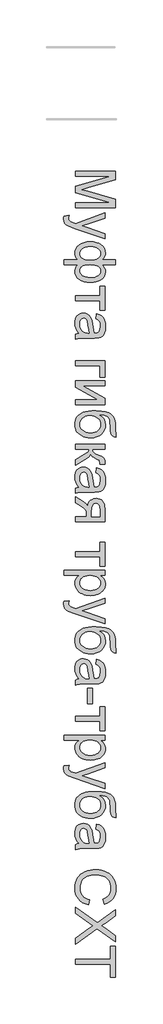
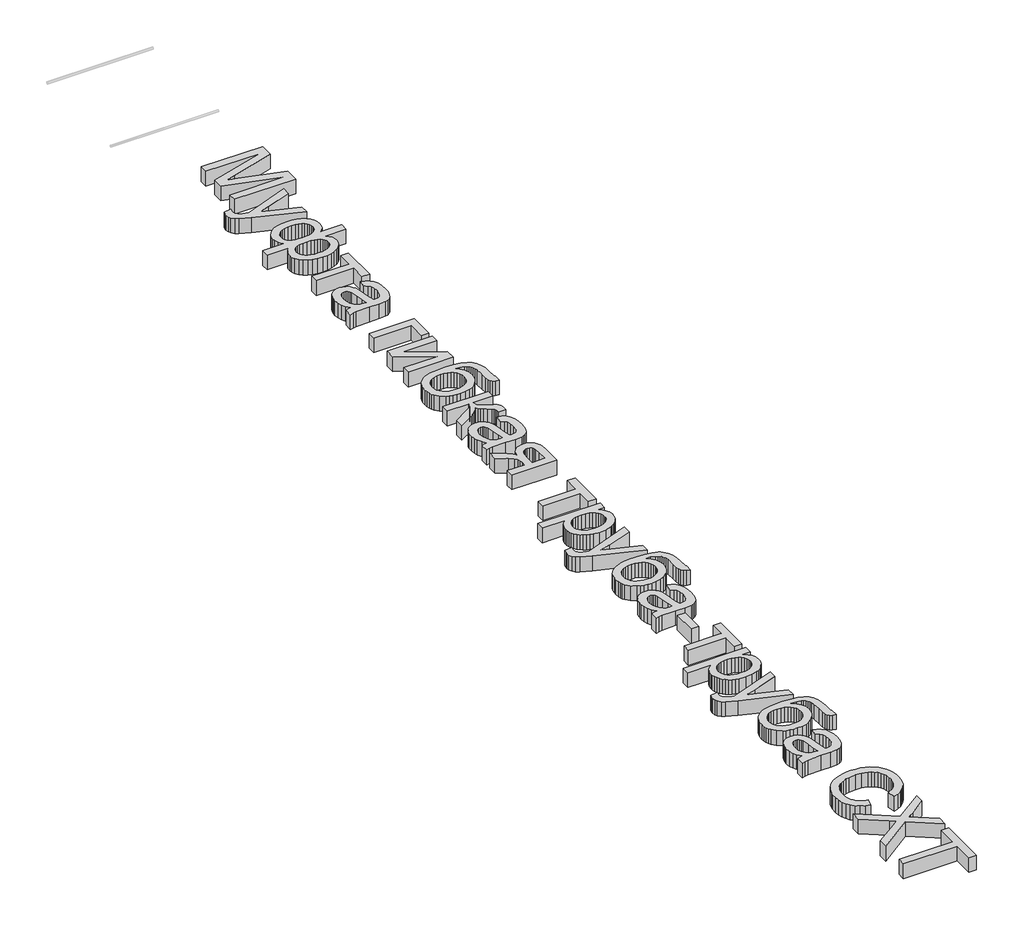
# One storey, part 14 of 33: 1 proxy.
"""IFC4 building model written with IfcOpenShell, lengths in millimetres."""

from ifc_helpers import new_model, si_unit, origin, origin_with_axes, place, context, project, spatial, polyline, outline, extrude, element, save

model = new_model("IFC4")

# Units and contexts
model_context = context("Model", 3, world=origin())
ifc_project = project(units=[si_unit("LENGTHUNIT", "METRE", prefix="MILLI")], contexts=[model_context])

# Site, building, storey
site = spatial("IfcSite", under=ifc_project)
building = spatial("IfcBuilding", under=site)
storey = spatial("IfcBuildingStorey", under=building, Name="Уровень 1", Elevation=0.0)

# Proxy
placement = place(None, origin())
element("IfcBuildingElementProxy", 1, Name="Надпись на модели 1", ObjectType="Надпись на модели 1", at=placement, inside=storey, context=model_context, shape_type="SweptSolid", body=[
    extrude(outline(polyline([(10924.4625724, -797.7209838), (11515.2318032, -797.7209838), (11515.2318032, -924.7882915), (11098.8375724, -1045.6536761), (11011.8664186, -1070.0286761), (11106.0491109, -1096.4229069), (11515.2318032, -1215.2690607), (11515.2318032, -1342.3363684), (10924.4625724, -1342.3363684), (10924.4625724, -1268.4902146), (11441.3856493, -1268.4902146), (10924.4625724, -1120.0767531), (10924.4625724, -1019.9805992), (11441.3856493, -871.5671377), (10924.4625724, -871.5671377), (10924.4625724, -797.7209838)])), origin_with_axes(), (0.0, 0.0, 1.0), 150.0),
    extrude(outline(polyline([(10758.3087262, -1462.3363684), (10829.4144955, -1453.1055992), (10822.9241109, -1490.6055992), (10824.9613705, -1510.3291569), (10831.0731493, -1525.6536761), (10840.8267551, -1537.5887723), (10853.7894955, -1547.1440607), (10908.1644955, -1567.3363684), (10926.0491109, -1573.1055992), (11358.3087262, -1416.1825223), (11358.3087262, -1494.0671377), (11117.4433416, -1577.2882915), (11021.0971878, -1606.2786761), (11106.1933416, -1635.2690607), (11358.3087262, -1720.7979069), (11358.3087262, -1798.1055992), (10914.077957, -1647.0959838), (10817.7318032, -1607.8652146), (10786.9745916, -1587.78108), (10765.6644955, -1565.0286761), (10753.2245916, -1538.5983877), (10749.077957, -1507.4805992), (10751.3856493, -1486.0983877), (10758.3087262, -1462.3363684)])), origin_with_axes(), (0.0, 0.0, 1.0), 150.0),
    extrude(outline(polyline([(11515.2318032, -2108.4902146), (11515.2318032, -2182.3363684), (11316.6260339, -2182.3363684), (11339.0358897, -2204.7462242), (11354.9193032, -2229.2834838), (11364.3844474, -2255.8399742), (11367.5394955, -2284.3075223), (11363.5280772, -2318.4947218), (11351.4938224, -2348.9409357), (11331.4367311, -2375.6461641), (11303.3568032, -2398.6104069), (11269.1921397, -2417.0674381), (11230.8808416, -2430.2510319), (11188.4229089, -2438.1611881), (11141.8183416, -2440.7979069), (11093.4875123, -2437.9583636), (11050.0334859, -2429.4397338), (11011.4562623, -2415.2420175), (10977.7558416, -2395.3652146), (10950.4015748, -2371.2696617), (10930.8628128, -2344.4156954), (10919.1395556, -2314.8033156), (10915.2318032, -2282.4325223), (10917.0346878, -2260.0406954), (10922.4433416, -2237.2882915), (10935.8928609, -2212.0839646), (10961.8183416, -2182.3363684), (10758.3087262, -2182.3363684), (10758.3087262, -2108.4902146), (10961.8183416, -2108.4902146), (10941.4818032, -2086.0262723), (10926.9144955, -2061.3267531), (10918.1524762, -2034.4637723), (10915.2318032, -2005.5094454), (10918.9637743, -1973.5262723), (10930.1596878, -1943.6344454), (10948.8195436, -1915.8339646), (10974.9433416, -1890.12483), (11008.0172599, -1868.5443011), (11047.5274762, -1853.1296377), (11093.4739907, -1843.8808396), (11145.8568032, -1840.7979069), (11191.0461061, -1843.5878708), (11232.4313224, -1851.9577627), (11270.0124522, -1865.9075824), (11303.7894955, -1885.43733), (11331.6801205, -1909.6816208), (11351.6019955, -1937.7750704), (11363.5551205, -1969.7176785), (11367.5394955, -2005.5094454), (11364.3844474, -2035.5995896), (11354.9193032, -2062.6969454), (11339.0358897, -2086.9457434), (11316.6260339, -2108.4902146), (11515.2318032, -2108.4902146)]), holes=[polyline([(11140.0875724, -2181.9036761), (11099.0403969, -2183.4406353), (11065.3219474, -2188.0515127), (11038.9322238, -2195.7363083), (11019.8712262, -2206.4950223), (11006.399171, -2219.570443), (10996.7762743, -2234.2053588), (10991.0025363, -2250.3997699), (10989.077957, -2268.1536761), (10991.4442431, -2287.881741), (10998.5431012, -2306.1043973), (11010.3745315, -2322.8216449), (11026.9385339, -2338.0334838), (11048.4875123, -2350.6852266), (11075.2738705, -2359.7221857), (11107.2976085, -2365.1443612), (11144.5587262, -2366.9517531), (11179.8051205, -2365.2840848), (11210.2558416, -2360.28108), (11235.9108897, -2351.9427386), (11256.7702647, -2340.2690607), (11272.9241109, -2325.9812002), (11284.4625724, -2309.8003107), (11291.3856493, -2291.7263925), (11293.6933416, -2271.7594454), (11291.2909979, -2250.7873901), (11284.0839666, -2232.5827627), (11272.0722479, -2217.1455631), (11255.2558416, -2204.4757915), (11233.6437623, -2194.600491), (11207.2450243, -2187.546705), (11176.0596277, -2183.3144333), (11140.0875724, -2181.9036761)]), polyline([(11147.4433416, -1914.6440607), (11108.2756734, -1916.4920175), (11075.0034378, -1922.0358877), (11047.6266349, -1931.2756713), (11026.1452647, -1944.2113684), (11009.9283176, -1959.8874502), (10998.3447839, -1977.3483877), (10991.3946637, -1996.5941809), (10989.077957, -2017.62483), (10991.3811421, -2039.1107074), (10998.2906974, -2057.702955), (11009.8066229, -2073.4015728), (11025.9289186, -2086.2065607), (11046.6575844, -2096.1449622), (11071.9926205, -2103.2438204), (11101.9340267, -2107.5031353), (11136.4818032, -2108.9229069), (11173.3282575, -2107.4310199), (11205.2618512, -2102.9553588), (11232.2825844, -2095.4959237), (11254.390457, -2085.0527146), (11271.585469, -2071.5986881), (11283.8676205, -2055.1068011), (11291.2369113, -2035.5770535), (11293.6933416, -2013.0094454), (11291.2955051, -1992.2402146), (11284.1019955, -1973.4902146), (11272.1128128, -1956.7594454), (11255.327957, -1942.0479069), (11234.1981493, -1930.0587242), (11209.1741109, -1921.4950223), (11180.2558416, -1916.3568011), (11147.4433416, -1914.6440607)])]), origin_with_axes(), (0.0, 0.0, 1.0), 150.0),
    extrude(outline(polyline([(11358.3087262, -2496.1825223), (11358.3087262, -2846.9517531), (11284.4625724, -2846.9517531), (11284.4625724, -2708.4902146), (10924.4625724, -2708.4902146), (10924.4625724, -2634.6440607), (11284.4625724, -2634.6440607), (11284.4625724, -2496.1825223), (11358.3087262, -2496.1825223)])), origin_with_axes(), (0.0, 0.0, 1.0), 150.0),
    extrude(outline(polyline([(10979.8471878, -3188.4902146), (10949.5947839, -3153.2077627), (10929.7991109, -3116.8796377), (10918.8736301, -3078.6765127), (10915.2318032, -3037.7690607), (10917.422308, -3004.8889526), (10923.9938224, -2976.0563204), (10934.9463464, -2951.2711641), (10950.2798801, -2930.5334838), (10969.0208657, -2914.1587843), (10990.1957455, -2902.4625704), (11013.8045195, -2895.444842), (11039.8471878, -2893.1055992), (11070.4601686, -2896.6392531), (11098.2606493, -2907.2402146), (11122.0587262, -2923.5923781), (11140.6644955, -2944.3796377), (11154.7269955, -2968.8087242), (11164.8952647, -2996.0863684), (11176.0010339, -3059.9805992), (11187.6837262, -3135.4854069), (11201.3856493, -3188.0575223), (11217.827957, -3188.4902146), (11250.7846878, -3183.40608), (11262.9902166, -3177.0509117), (11272.3471878, -3168.1536761), (11281.6861301, -3152.7750704), (11288.3568032, -3134.0430992), (11293.6933416, -3086.5190607), (11290.1416589, -3042.5286761), (11279.4866109, -3011.8075223), (11259.781082, -2990.8580031), (11229.077957, -2976.1825223), (11238.3087262, -2902.3363684), (11278.6933416, -2915.1548781), (11310.4241109, -2934.2834838), (11334.6909378, -2961.5070415), (11352.6837262, -2998.6104069), (11363.8255532, -3043.9890127), (11367.5394955, -3096.0382915), (11364.2582455, -3145.9601665), (11354.4144955, -3185.5334838), (11339.6128128, -3215.3712242), (11321.4577647, -3236.0863684), (11299.0118512, -3249.8243492), (11271.3375724, -3258.7305992), (11206.7221878, -3262.3363684), (11114.8471878, -3262.3363684), (10986.5539186, -3266.0863684), (10954.8411782, -3271.6392531), (10924.4625724, -3280.7979069), (10924.4625724, -3206.9517531), (10950.1356493, -3195.12483), (10979.8471878, -3188.4902146)]), holes=[polyline([(11127.5394955, -3188.4902146), (11115.2438224, -3138.87483), (11104.8952647, -3069.3555992), (11092.9241109, -3005.8219454), (11084.7390147, -2989.2894934), (11073.452957, -2977.0479069), (11059.9313224, -2969.4757915), (11045.0394955, -2966.9517531), (11023.0803609, -2972.4505511), (11005.0875724, -2988.9469454), (10993.0803609, -3016.0803588), (10989.077957, -3053.4902146), (10993.4950243, -3093.1536761), (11006.7462262, -3128.2017531), (11026.2714666, -3156.6152146), (11049.5106493, -3176.37483), (11073.452957, -3185.1368492), (11106.6260339, -3188.0575223), (11127.5394955, -3188.4902146)])]), origin_with_axes(), (0.0, 0.0, 1.0), 150.0),
    extrude(outline(polyline([(11358.3087262, -3594.6440607), (11358.3087262, -3834.6440607), (11284.4625724, -3834.6440607), (11284.4625724, -3668.4902146), (10924.4625724, -3668.4902146), (10924.4625724, -3594.6440607), (11358.3087262, -3594.6440607)])), origin_with_axes(), (0.0, 0.0, 1.0), 150.0),
    extrude(outline(polyline([(11358.3087262, -3890.0286761), (11358.3087262, -3963.87483), (11027.4433416, -3963.87483), (11358.3087262, -4145.3171377), (11358.3087262, -4240.7979069), (10924.4625724, -4240.7979069), (10924.4625724, -4166.9517531), (11253.3087262, -4166.9517531), (10924.4625724, -3986.6632915), (10924.4625724, -3890.0286761), (11358.3087262, -3890.0286761)])), origin_with_axes(), (0.0, 0.0, 1.0), 150.0),
    extrude(outline(polyline([(11524.4625724, -4656.1825223), (11524.4625724, -4720.7979069), (11489.3604089, -4713.8027146), (11466.8423801, -4701.7594454), (11453.5190628, -4685.0647338), (11446.0010339, -4664.1152146), (11442.5394955, -4629.96858), (11441.3856493, -4573.6825223), (11437.1308416, -4498.5923781), (11431.812332, -4471.6888324), (11424.3664186, -4451.8796377), (11414.5767551, -4436.7624502), (11402.2269955, -4423.9349261), (11387.3171397, -4413.3970656), (11369.8471878, -4405.1488684), (11326.9745916, -4394.0971857), (11273.3568032, -4389.3555992), (11314.6068032, -4419.0491088), (11344.0298801, -4453.3219454), (11361.6620916, -4492.2101665), (11367.5394955, -4535.74983), (11363.8030171, -4575.9812002), (11352.593582, -4612.5887723), (11333.9111902, -4645.5725463), (11307.7558416, -4674.9325223), (11275.227296, -4699.0370896), (11237.4253128, -4716.2546377), (11194.3498921, -4726.5851665), (11146.0010339, -4730.0286761), (11109.0148561, -4728.320443), (11075.5082455, -4723.1957434), (11045.4812022, -4714.6545776), (11018.9337262, -4702.6969454), (10974.9613705, -4672.8231473), (10942.2750724, -4637.8652146), (10930.4436421, -4617.4205031), (10921.9926205, -4593.5863684), (10916.9220075, -4566.3628107), (10915.2318032, -4535.74983), (10917.4087863, -4500.3366689), (10923.9397359, -4469.0971857), (10934.8246517, -4442.0313805), (10950.0635339, -4419.1392531), (10968.6963464, -4399.5464045), (10989.7630532, -4382.3784357), (11013.2636541, -4367.6353468), (11039.1981493, -4355.3171377), (11071.3841469, -4345.5995896), (11113.6392551, -4338.6584838), (11165.9634738, -4334.4938204), (11228.3568032, -4333.1055992), (11306.1107094, -4336.6077026), (11370.0455051, -4347.1140127), (11420.1611902, -4364.6245295), (11440.0368663, -4376.0063654), (11456.4577647, -4389.1392531), (11482.1714065, -4420.9196016), (11500.5382936, -4460.2269934), (11511.5584258, -4507.0614285), (11515.2318032, -4561.4229069), (11516.890457, -4643.6344454), (11519.6128128, -4651.6753107), (11524.4625724, -4656.1825223)]), holes=[polyline([(11148.3087262, -4656.1825223), (11178.8090267, -4654.1813204), (11206.4156974, -4648.1777146), (11231.1287383, -4638.171705), (11252.9481493, -4624.1632915), (11270.774171, -4606.5130511), (11283.5070436, -4585.5815607), (11291.1467671, -4561.3688204), (11293.6933416, -4533.87483), (11291.0025363, -4505.1819213), (11282.9301205, -4479.96858), (11269.476094, -4458.2348059), (11250.640457, -4439.9805992), (11227.3066229, -4425.530479), (11200.3580051, -4415.2089646), (11169.7946037, -4409.0160559), (11135.6164186, -4406.9517531), (11102.1503729, -4409.2324021), (11072.8580051, -4416.0743492), (11047.7393152, -4427.4775944), (11026.7943032, -4443.4421377), (11010.2934017, -4462.7510319), (10998.5070436, -4484.18733), (10991.4352287, -4507.7510319), (10989.077957, -4533.4421377), (10991.80482, -4559.4848059), (10999.9854089, -4582.9493492), (11013.6197238, -4603.8357675), (11032.7077647, -4622.1440607), (11056.2940027, -4637.0358877), (11083.4229089, -4647.6729069), (11114.0944835, -4654.0551184), (11148.3087262, -4656.1825223)])]), origin_with_axes(), (0.0, 0.0, 1.0), 150.0),
    extrude(outline(polyline([(11358.3087262, -4822.3363684), (11358.3087262, -4896.1825223), (11173.6933416, -4896.1825223), (11177.0106493, -4926.21858), (11186.9625724, -4945.6536761), (11212.9241109, -4962.8531954), (11264.2702647, -4986.1825223), (11306.2594474, -5004.9866088), (11330.9769955, -5019.8604069), (11344.4445436, -5033.7426184), (11352.6837262, -5049.5719454), (11356.9024762, -5071.4769934), (11358.3087262, -5103.5863684), (11358.3087262, -5117.7209838), (11284.0298801, -5117.7209838), (11284.4625724, -5097.8171377), (11282.515457, -5074.7402146), (11276.6741109, -5061.7594454), (11260.4120916, -5051.2305992), (11228.0683416, -5036.37483), (11195.6705051, -5020.7798781), (11175.4962262, -5006.5911761), (11162.0286782, -4989.4096857), (11149.7510339, -4964.8363684), (11139.3574041, -4988.2378107), (11121.0130532, -5011.4229069), (11094.7179811, -5034.3916569), (11060.4721878, -5057.1440607), (10924.4625724, -5136.1825223), (10924.4625724, -5052.2402146), (11057.5875724, -4974.7882915), (11093.0142551, -4953.87483), (11113.9096878, -4935.8459838), (11124.1320436, -4917.6368492), (11127.5394955, -4896.1825223), (10924.4625724, -4896.1825223), (10924.4625724, -4822.3363684), (11358.3087262, -4822.3363684)])), origin_with_axes(), (0.0, 0.0, 1.0), 150.0),
    extrude(outline(polyline([(10979.8471878, -5459.2594454), (10949.5947839, -5423.9769934), (10929.7991109, -5387.6488684), (10918.8736301, -5349.4457434), (10915.2318032, -5308.5382915), (10917.422308, -5275.6581833), (10923.9938224, -5246.8255511), (10934.9463464, -5222.0403949), (10950.2798801, -5201.3027146), (10969.0208657, -5184.9280151), (10990.1957455, -5173.2318011), (11013.8045195, -5166.2140728), (11039.8471878, -5163.87483), (11070.4601686, -5167.4084838), (11098.2606493, -5178.0094454), (11122.0587262, -5194.3616088), (11140.6644955, -5215.1488684), (11154.7269955, -5239.577955), (11164.8952647, -5266.8555992), (11176.0010339, -5330.74983), (11187.6837262, -5406.2546377), (11201.3856493, -5458.8267531), (11217.827957, -5459.2594454), (11250.7846878, -5454.1753107), (11262.9902166, -5447.8201425), (11272.3471878, -5438.9229069), (11281.6861301, -5423.5443011), (11288.3568032, -5404.81233), (11293.6933416, -5357.2882915), (11290.1416589, -5313.2979069), (11279.4866109, -5282.5767531), (11259.781082, -5261.6272338), (11229.077957, -5246.9517531), (11238.3087262, -5173.1055992), (11278.6933416, -5185.9241088), (11310.4241109, -5205.0527146), (11334.6909378, -5232.2762723), (11352.6837262, -5269.3796377), (11363.8255532, -5314.7582434), (11367.5394955, -5366.8075223), (11364.2582455, -5416.7293973), (11354.4144955, -5456.3027146), (11339.6128128, -5486.140455), (11321.4577647, -5506.8555992), (11299.0118512, -5520.59358), (11271.3375724, -5529.49983), (11206.7221878, -5533.1055992), (11114.8471878, -5533.1055992), (10986.5539186, -5536.8555992), (10954.8411782, -5542.4084838), (10924.4625724, -5551.5671377), (10924.4625724, -5477.7209838), (10950.1356493, -5465.8940607), (10979.8471878, -5459.2594454)]), holes=[polyline([(11127.5394955, -5459.2594454), (11115.2438224, -5409.6440607), (11104.8952647, -5340.12483), (11092.9241109, -5276.5911761), (11084.7390147, -5260.0587242), (11073.452957, -5247.8171377), (11059.9313224, -5240.2450223), (11045.0394955, -5237.7209838), (11023.0803609, -5243.2197819), (11005.0875724, -5259.7161761), (10993.0803609, -5286.8495896), (10989.077957, -5324.2594454), (10993.4950243, -5363.9229069), (11006.7462262, -5398.9709838), (11026.2714666, -5427.3844454), (11049.5106493, -5447.1440607), (11073.452957, -5455.90608), (11106.6260339, -5458.8267531), (11127.5394955, -5459.2594454)])]), origin_with_axes(), (0.0, 0.0, 1.0), 150.0),
    extrude(outline(polyline([(11358.3087262, -5966.9517531), (10924.4625724, -5966.9517531), (10924.4625724, -5893.1055992), (11090.6164186, -5893.1055992), (11090.6164186, -5852.8652146), (11088.2726686, -5820.7738684), (11081.2414186, -5798.0575223), (11060.796707, -5776.1705031), (11018.2125724, -5746.5671377), (10924.4625724, -5687.7209838), (10924.4625724, -5602.3363684), (11043.0202647, -5676.4709838), (11085.5683416, -5709.2113684), (11097.9721878, -5724.6080031), (11104.4625724, -5739.3555992), (11110.4571637, -5712.2402146), (11119.9313224, -5688.87483), (11132.8850484, -5669.2594454), (11149.3183416, -5653.3940607), (11168.1765147, -5641.1524742), (11188.4048801, -5632.4084838), (11210.0034378, -5627.1620896), (11232.9721878, -5625.4132915), (11259.5647359, -5627.8021136), (11283.5250724, -5634.96858), (11304.8531974, -5646.9126906), (11323.5491109, -5663.6344454), (11338.7564426, -5684.8814406), (11349.6188224, -5710.4012723), (11356.1362503, -5740.1939406), (11358.3087262, -5774.2594454), (11358.3087262, -5966.9517531)]), holes=[polyline([(11284.4625724, -5893.1055992), (11284.4625724, -5795.74983), (11280.1897359, -5745.4673781), (11274.8486902, -5728.4796978), (11267.3712262, -5716.9277146), (11248.8195436, -5703.6765127), (11227.3471878, -5699.2594454), (11212.1984498, -5700.8865487), (11199.2041589, -5705.7678588), (11188.3643152, -5713.9033756), (11179.6789186, -5725.2930992), (11173.0217671, -5740.820443), (11168.2666589, -5761.3688204), (11164.4625724, -5817.5286761), (11164.4625724, -5893.1055992), (11284.4625724, -5893.1055992)])]), origin_with_axes(), (0.0, 0.0, 1.0), 150.0),
    extrude(outline(polyline([(11358.3087262, -6271.5671377), (11358.3087262, -6622.3363684), (11284.4625724, -6622.3363684), (11284.4625724, -6483.87483), (10924.4625724, -6483.87483), (10924.4625724, -6410.0286761), (11284.4625724, -6410.0286761), (11284.4625724, -6271.5671377), (11358.3087262, -6271.5671377)])), origin_with_axes(), (0.0, 0.0, 1.0), 150.0),
    extrude(outline(polyline([(10758.3087262, -6686.9517531), (11358.3087262, -6686.9517531), (11358.3087262, -6760.7979069), (11285.9048801, -6760.7979069), (11321.6200243, -6784.8844454), (11347.1308416, -6811.8555992), (11362.437332, -6843.2979069), (11367.5394955, -6880.7979069), (11365.7546397, -6906.5521136), (11360.4000724, -6930.7378107), (11351.4757936, -6953.3549982), (11338.9818032, -6974.4036761), (11323.2426205, -6993.4241088), (11304.5827647, -7009.9565607), (11283.0022359, -7024.0010319), (11258.5010339, -7035.5575223), (11204.0899762, -7051.0262723), (11144.702957, -7056.1825223), (11081.5479089, -7050.359205), (11052.4718873, -7043.0800583), (11025.0635339, -7032.8892531), (11000.0394955, -7019.9265127), (10978.1164186, -7004.3315607), (10959.2943032, -6986.1043973), (10943.5731493, -6965.2450223), (10931.1738104, -6942.7765728), (10922.3171397, -6919.7221857), (10917.0031373, -6896.0818612), (10915.2318032, -6871.8555992), (10919.9733897, -6837.9072819), (10934.1981493, -6807.6007915), (10955.6705051, -6781.6572819), (10982.1548801, -6760.7979069), (10758.3087262, -6760.7979069), (10758.3087262, -6686.9517531)]), holes=[polyline([(11137.9241109, -6760.7979069), (11102.3351686, -6762.7946016), (11071.7221878, -6768.7846857), (11046.0851686, -6778.7681593), (11025.4241109, -6792.7450223), (11009.5226686, -6809.570443), (10998.1644955, -6828.0995896), (10991.3495916, -6848.3324622), (10989.077957, -6870.2690607), (10991.4307214, -6892.5211641), (10998.4890147, -6913.1236281), (11010.2528368, -6932.0764526), (11026.7221878, -6949.3796377), (11048.1314426, -6963.7982074), (11074.7149762, -6974.0971857), (11106.4727887, -6980.2765728), (11143.4048801, -6982.3363684), (11178.687332, -6980.3261521), (11209.2462262, -6974.2955031), (11235.0815628, -6964.2444213), (11256.1933416, -6950.1729069), (11272.5995916, -6933.3069213), (11284.3183416, -6914.8724261), (11291.3495916, -6894.8694213), (11293.6933416, -6873.2979069), (11291.2008537, -6851.7940006), (11283.7233897, -6831.5611281), (11271.2609498, -6812.5992891), (11253.8135339, -6794.9084838), (11231.6155171, -6779.9851064), (11204.9012743, -6769.3255511), (11173.6708056, -6762.929818), (11137.9241109, -6760.7979069)])]), origin_with_axes(), (0.0, 0.0, 1.0), 150.0),
    extrude(outline(polyline([(10758.3087262, -7139.2594454), (10829.4144955, -7130.0286761), (10822.9241109, -7167.5286761), (10824.9613705, -7187.2522338), (10831.0731493, -7202.5767531), (10840.8267551, -7214.5118492), (10853.7894955, -7224.0671377), (10908.1644955, -7244.2594454), (10926.0491109, -7250.0286761), (11358.3087262, -7093.1055992), (11358.3087262, -7170.9902146), (11117.4433416, -7254.2113684), (11021.0971878, -7283.2017531), (11106.1933416, -7312.1921377), (11358.3087262, -7397.7209838), (11358.3087262, -7475.0286761), (10914.077957, -7324.0190607), (10817.7318032, -7284.7882915), (10786.9745916, -7264.7041569), (10765.6644955, -7241.9517531), (10753.2245916, -7215.5214646), (10749.077957, -7184.4036761), (10751.3856493, -7163.0214646), (10758.3087262, -7139.2594454)])), origin_with_axes(), (0.0, 0.0, 1.0), 150.0),
    extrude(outline(polyline([(11524.4625724, -7840.7979069), (11524.4625724, -7905.4132915), (11489.3604089, -7898.4180992), (11466.8423801, -7886.37483), (11453.5190628, -7869.6801184), (11446.0010339, -7848.7305992), (11442.5394955, -7814.5839646), (11441.3856493, -7758.2979069), (11437.1308416, -7683.2077627), (11431.812332, -7656.304217), (11424.3664186, -7636.4950223), (11414.5767551, -7621.3778348), (11402.2269955, -7608.5503107), (11387.3171397, -7598.0124502), (11369.8471878, -7589.7642531), (11326.9745916, -7578.7125704), (11273.3568032, -7573.9709838), (11314.6068032, -7603.6644934), (11344.0298801, -7637.93733), (11361.6620916, -7676.8255511), (11367.5394955, -7720.3652146), (11363.8030171, -7760.5965848), (11352.593582, -7797.2041569), (11333.9111902, -7830.1879309), (11307.7558416, -7859.5479069), (11275.227296, -7883.6524742), (11237.4253128, -7900.8700223), (11194.3498921, -7911.2005511), (11146.0010339, -7914.6440607), (11109.0148561, -7912.9358276), (11075.5082455, -7907.8111281), (11045.4812022, -7899.2699622), (11018.9337262, -7887.31233), (10974.9613705, -7857.4385319), (10942.2750724, -7822.4805992), (10930.4436421, -7802.0358877), (10921.9926205, -7778.2017531), (10916.9220075, -7750.9781954), (10915.2318032, -7720.3652146), (10917.4087863, -7684.9520535), (10923.9397359, -7653.7125704), (10934.8246517, -7626.6467651), (10950.0635339, -7603.7546377), (10968.6963464, -7584.1617891), (10989.7630532, -7566.9938204), (11013.2636541, -7552.2507314), (11039.1981493, -7539.9325223), (11071.3841469, -7530.2149742), (11113.6392551, -7523.2738684), (11165.9634738, -7519.109205), (11228.3568032, -7517.7209838), (11306.1107094, -7521.2230872), (11370.0455051, -7531.7293973), (11420.1611902, -7549.2399141), (11440.0368663, -7560.62175), (11456.4577647, -7573.7546377), (11482.1714065, -7605.5349862), (11500.5382936, -7644.8423781), (11511.5584258, -7691.6768131), (11515.2318032, -7746.0382915), (11516.890457, -7828.24983), (11519.6128128, -7836.2906954), (11524.4625724, -7840.7979069)]), holes=[polyline([(11148.3087262, -7840.7979069), (11178.8090267, -7838.796705), (11206.4156974, -7832.7930992), (11231.1287383, -7822.7870896), (11252.9481493, -7808.7786761), (11270.774171, -7791.1284357), (11283.5070436, -7770.1969454), (11291.1467671, -7745.984205), (11293.6933416, -7718.4902146), (11291.0025363, -7689.7973059), (11282.9301205, -7664.5839646), (11269.476094, -7642.8501906), (11250.640457, -7624.5959838), (11227.3066229, -7610.1458636), (11200.3580051, -7599.8243492), (11169.7946037, -7593.6314406), (11135.6164186, -7591.5671377), (11102.1503729, -7593.8477867), (11072.8580051, -7600.6897338), (11047.7393152, -7612.092979), (11026.7943032, -7628.0575223), (11010.2934017, -7647.3664165), (10998.5070436, -7668.8027146), (10991.4352287, -7692.3664165), (10989.077957, -7718.0575223), (10991.80482, -7744.1001906), (10999.9854089, -7767.5647338), (11013.6197238, -7788.4511521), (11032.7077647, -7806.7594454), (11056.2940027, -7821.6512723), (11083.4229089, -7832.2882915), (11114.0944835, -7838.6705031), (11148.3087262, -7840.7979069)])]), origin_with_axes(), (0.0, 0.0, 1.0), 150.0),
    extrude(outline(polyline([(10979.8471878, -8283.87483), (10949.5947839, -8248.5923781), (10929.7991109, -8212.2642531), (10918.8736301, -8174.0611281), (10915.2318032, -8133.1536761), (10917.422308, -8100.273568), (10923.9938224, -8071.4409357), (10934.9463464, -8046.6557795), (10950.2798801, -8025.9180992), (10969.0208657, -8009.5433997), (10990.1957455, -7997.8471857), (11013.8045195, -7990.8294574), (11039.8471878, -7988.4902146), (11070.4601686, -7992.0238684), (11098.2606493, -8002.62483), (11122.0587262, -8018.9769934), (11140.6644955, -8039.7642531), (11154.7269955, -8064.1933396), (11164.8952647, -8091.4709838), (11176.0010339, -8155.3652146), (11187.6837262, -8230.8700223), (11201.3856493, -8283.4421377), (11217.827957, -8283.87483), (11250.7846878, -8278.7906954), (11262.9902166, -8272.4355271), (11272.3471878, -8263.5382915), (11281.6861301, -8248.1596857), (11288.3568032, -8229.4277146), (11293.6933416, -8181.9036761), (11290.1416589, -8137.9132915), (11279.4866109, -8107.1921377), (11259.781082, -8086.2426184), (11229.077957, -8071.5671377), (11238.3087262, -7997.7209838), (11278.6933416, -8010.5394934), (11310.4241109, -8029.6680992), (11334.6909378, -8056.8916569), (11352.6837262, -8093.9950223), (11363.8255532, -8139.3736281), (11367.5394955, -8191.4229069), (11364.2582455, -8241.3447819), (11354.4144955, -8280.9180992), (11339.6128128, -8310.7558396), (11321.4577647, -8331.4709838), (11299.0118512, -8345.2089646), (11271.3375724, -8354.1152146), (11206.7221878, -8357.7209838), (11114.8471878, -8357.7209838), (10986.5539186, -8361.4709838), (10954.8411782, -8367.0238684), (10924.4625724, -8376.1825223), (10924.4625724, -8302.3363684), (10950.1356493, -8290.5094454), (10979.8471878, -8283.87483)]), holes=[polyline([(11127.5394955, -8283.87483), (11115.2438224, -8234.2594454), (11104.8952647, -8164.7402146), (11092.9241109, -8101.2065607), (11084.7390147, -8084.6741088), (11073.452957, -8072.4325223), (11059.9313224, -8064.8604069), (11045.0394955, -8062.3363684), (11023.0803609, -8067.8351665), (11005.0875724, -8084.3315607), (10993.0803609, -8111.4649742), (10989.077957, -8148.87483), (10993.4950243, -8188.5382915), (11006.7462262, -8223.5863684), (11026.2714666, -8251.99983), (11049.5106493, -8271.7594454), (11073.452957, -8280.5214646), (11106.6260339, -8283.4421377), (11127.5394955, -8283.87483)])]), origin_with_axes(), (0.0, 0.0, 1.0), 150.0),
    extrude(outline(polyline([(11099.8471878, -8422.3363684), (11173.6933416, -8422.3363684), (11173.6933416, -8653.1055992), (11099.8471878, -8653.1055992), (11099.8471878, -8422.3363684)])), origin_with_axes(), (0.0, 0.0, 1.0), 150.0),
    extrude(outline(polyline([(11358.3087262, -8699.2594454), (11358.3087262, -9050.0286761), (11284.4625724, -9050.0286761), (11284.4625724, -8911.5671377), (10924.4625724, -8911.5671377), (10924.4625724, -8837.7209838), (11284.4625724, -8837.7209838), (11284.4625724, -8699.2594454), (11358.3087262, -8699.2594454)])), origin_with_axes(), (0.0, 0.0, 1.0), 150.0),
    extrude(outline(polyline([(10758.3087262, -9114.6440607), (11358.3087262, -9114.6440607), (11358.3087262, -9188.4902146), (11285.9048801, -9188.4902146), (11321.6200243, -9212.5767531), (11347.1308416, -9239.5479069), (11362.437332, -9270.9902146), (11367.5394955, -9308.4902146), (11365.7546397, -9334.2444213), (11360.4000724, -9358.4301184), (11351.4757936, -9381.0473059), (11338.9818032, -9402.0959838), (11323.2426205, -9421.1164165), (11304.5827647, -9437.6488684), (11283.0022359, -9451.6933396), (11258.5010339, -9463.24983), (11204.0899762, -9478.71858), (11144.702957, -9483.87483), (11081.5479089, -9478.0515127), (11052.4718873, -9470.772366), (11025.0635339, -9460.5815607), (11000.0394955, -9447.6188204), (10978.1164186, -9432.0238684), (10959.2943032, -9413.796705), (10943.5731493, -9392.93733), (10931.1738104, -9370.4688805), (10922.3171397, -9347.4144934), (10917.0031373, -9323.7741689), (10915.2318032, -9299.5479069), (10919.9733897, -9265.5995896), (10934.1981493, -9235.2930992), (10955.6705051, -9209.3495896), (10982.1548801, -9188.4902146), (10758.3087262, -9188.4902146), (10758.3087262, -9114.6440607)]), holes=[polyline([(11137.9241109, -9188.4902146), (11102.3351686, -9190.4869093), (11071.7221878, -9196.4769934), (11046.0851686, -9206.460467), (11025.4241109, -9220.43733), (11009.5226686, -9237.2627506), (10998.1644955, -9255.7918973), (10991.3495916, -9276.0247699), (10989.077957, -9297.9613684), (10991.4307214, -9320.2134718), (10998.4890147, -9340.8159357), (11010.2528368, -9359.7687603), (11026.7221878, -9377.0719454), (11048.1314426, -9391.4905151), (11074.7149762, -9401.7894934), (11106.4727887, -9407.9688805), (11143.4048801, -9410.0286761), (11178.687332, -9408.0184598), (11209.2462262, -9401.9878107), (11235.0815628, -9391.936729), (11256.1933416, -9377.8652146), (11272.5995916, -9360.999229), (11284.3183416, -9342.5647338), (11291.3495916, -9322.561729), (11293.6933416, -9300.9902146), (11291.2008537, -9279.4863083), (11283.7233897, -9259.2534357), (11271.2609498, -9240.2915968), (11253.8135339, -9222.6007915), (11231.6155171, -9207.6774141), (11204.9012743, -9197.0178588), (11173.6708056, -9190.6221256), (11137.9241109, -9188.4902146)])]), origin_with_axes(), (0.0, 0.0, 1.0), 150.0),
    extrude(outline(polyline([(10758.3087262, -9566.9517531), (10829.4144955, -9557.7209838), (10822.9241109, -9595.2209838), (10824.9613705, -9614.9445415), (10831.0731493, -9630.2690607), (10840.8267551, -9642.2041569), (10853.7894955, -9651.7594454), (10908.1644955, -9671.9517531), (10926.0491109, -9677.7209838), (11358.3087262, -9520.7979069), (11358.3087262, -9598.6825223), (11117.4433416, -9681.9036761), (11021.0971878, -9710.8940607), (11106.1933416, -9739.8844454), (11358.3087262, -9825.4132915), (11358.3087262, -9902.7209838), (10914.077957, -9751.7113684), (10817.7318032, -9712.4805992), (10786.9745916, -9692.3964646), (10765.6644955, -9669.6440607), (10753.2245916, -9643.2137723), (10749.077957, -9612.0959838), (10751.3856493, -9590.7137723), (10758.3087262, -9566.9517531)])), origin_with_axes(), (0.0, 0.0, 1.0), 150.0),
    extrude(outline(polyline([(11524.4625724, -10268.4902146), (11524.4625724, -10333.1055992), (11489.3604089, -10326.1104069), (11466.8423801, -10314.0671377), (11453.5190628, -10297.3724261), (11446.0010339, -10276.4229069), (11442.5394955, -10242.2762723), (11441.3856493, -10185.9902146), (11437.1308416, -10110.9000704), (11431.812332, -10083.9965247), (11424.3664186, -10064.18733), (11414.5767551, -10049.0701425), (11402.2269955, -10036.2426184), (11387.3171397, -10025.7047579), (11369.8471878, -10017.4565607), (11326.9745916, -10006.4048781), (11273.3568032, -10001.6632915), (11314.6068032, -10031.3568011), (11344.0298801, -10065.6296377), (11361.6620916, -10104.5178588), (11367.5394955, -10148.0575223), (11363.8030171, -10188.2888925), (11352.593582, -10224.8964646), (11333.9111902, -10257.8802386), (11307.7558416, -10287.2402146), (11275.227296, -10311.3447819), (11237.4253128, -10328.56233), (11194.3498921, -10338.8928588), (11146.0010339, -10342.3363684), (11109.0148561, -10340.6281353), (11075.5082455, -10335.5034357), (11045.4812022, -10326.9622699), (11018.9337262, -10315.0046377), (10974.9613705, -10285.1308396), (10942.2750724, -10250.1729069), (10930.4436421, -10229.7281954), (10921.9926205, -10205.8940607), (10916.9220075, -10178.6705031), (10915.2318032, -10148.0575223), (10917.4087863, -10112.6443612), (10923.9397359, -10081.4048781), (10934.8246517, -10054.3390728), (10950.0635339, -10031.4469454), (10968.6963464, -10011.8540968), (10989.7630532, -9994.6861281), (11013.2636541, -9979.9430391), (11039.1981493, -9967.62483), (11071.3841469, -9957.9072819), (11113.6392551, -9950.9661761), (11165.9634738, -9946.8015127), (11228.3568032, -9945.4132915), (11306.1107094, -9948.9153949), (11370.0455051, -9959.421705), (11420.1611902, -9976.9322218), (11440.0368663, -9988.3140577), (11456.4577647, -10001.4469454), (11482.1714065, -10033.2272939), (11500.5382936, -10072.5346857), (11511.5584258, -10119.3691208), (11515.2318032, -10173.7305992), (11516.890457, -10255.9421377), (11519.6128128, -10263.9830031), (11524.4625724, -10268.4902146)]), holes=[polyline([(11148.3087262, -10268.4902146), (11178.8090267, -10266.4890127), (11206.4156974, -10260.4854069), (11231.1287383, -10250.4793973), (11252.9481493, -10236.4709838), (11270.774171, -10218.8207434), (11283.5070436, -10197.8892531), (11291.1467671, -10173.6765127), (11293.6933416, -10146.1825223), (11291.0025363, -10117.4896136), (11282.9301205, -10092.2762723), (11269.476094, -10070.5424982), (11250.640457, -10052.2882915), (11227.3066229, -10037.8381713), (11200.3580051, -10027.5166569), (11169.7946037, -10021.3237482), (11135.6164186, -10019.2594454), (11102.1503729, -10021.5400944), (11072.8580051, -10028.3820415), (11047.7393152, -10039.7852867), (11026.7943032, -10055.74983), (11010.2934017, -10075.0587242), (10998.5070436, -10096.4950223), (10991.4352287, -10120.0587242), (10989.077957, -10145.74983), (10991.80482, -10171.7924982), (10999.9854089, -10195.2570415), (11013.6197238, -10216.1434598), (11032.7077647, -10234.4517531), (11056.2940027, -10249.34358), (11083.4229089, -10259.9805992), (11114.0944835, -10266.3628107), (11148.3087262, -10268.4902146)])]), origin_with_axes(), (0.0, 0.0, 1.0), 150.0),
    extrude(outline(polyline([(10979.8471878, -10711.5671377), (10949.5947839, -10676.2846857), (10929.7991109, -10639.9565607), (10918.8736301, -10601.7534357), (10915.2318032, -10560.8459838), (10917.422308, -10527.9658756), (10923.9938224, -10499.1332434), (10934.9463464, -10474.3480872), (10950.2798801, -10453.6104069), (10969.0208657, -10437.2357074), (10990.1957455, -10425.5394934), (11013.8045195, -10418.5217651), (11039.8471878, -10416.1825223), (11070.4601686, -10419.7161761), (11098.2606493, -10430.3171377), (11122.0587262, -10446.6693011), (11140.6644955, -10467.4565607), (11154.7269955, -10491.8856473), (11164.8952647, -10519.1632915), (11176.0010339, -10583.0575223), (11187.6837262, -10658.56233), (11201.3856493, -10711.1344454), (11217.827957, -10711.5671377), (11250.7846878, -10706.4830031), (11262.9902166, -10700.1278348), (11272.3471878, -10691.2305992), (11281.6861301, -10675.8519934), (11288.3568032, -10657.1200223), (11293.6933416, -10609.5959838), (11290.1416589, -10565.6055992), (11279.4866109, -10534.8844454), (11259.781082, -10513.9349261), (11229.077957, -10499.2594454), (11238.3087262, -10425.4132915), (11278.6933416, -10438.2318011), (11310.4241109, -10457.3604069), (11334.6909378, -10484.5839646), (11352.6837262, -10521.68733), (11363.8255532, -10567.0659357), (11367.5394955, -10619.1152146), (11364.2582455, -10669.0370896), (11354.4144955, -10708.6104069), (11339.6128128, -10738.4481473), (11321.4577647, -10759.1632915), (11299.0118512, -10772.9012723), (11271.3375724, -10781.8075223), (11206.7221878, -10785.4132915), (11114.8471878, -10785.4132915), (10986.5539186, -10789.1632915), (10954.8411782, -10794.7161761), (10924.4625724, -10803.87483), (10924.4625724, -10730.0286761), (10950.1356493, -10718.2017531), (10979.8471878, -10711.5671377)]), holes=[polyline([(11127.5394955, -10711.5671377), (11115.2438224, -10661.9517531), (11104.8952647, -10592.4325223), (11092.9241109, -10528.8988684), (11084.7390147, -10512.3664165), (11073.452957, -10500.12483), (11059.9313224, -10492.5527146), (11045.0394955, -10490.0286761), (11023.0803609, -10495.5274742), (11005.0875724, -10512.0238684), (10993.0803609, -10539.1572819), (10989.077957, -10576.5671377), (10993.4950243, -10616.2305992), (11006.7462262, -10651.2786761), (11026.2714666, -10679.6921377), (11049.5106493, -10699.4517531), (11073.452957, -10708.2137723), (11106.6260339, -10711.1344454), (11127.5394955, -10711.5671377)])]), origin_with_axes(), (0.0, 0.0, 1.0), 150.0),
    extrude(outline(polyline([(11134.4625724, -11542.3363684), (11115.4241109, -11616.1825223), (11069.5001325, -11601.5701425), (11029.3724282, -11582.1080031), (10995.0409979, -11557.796104), (10966.5058416, -11528.6344454), (10944.0734498, -11495.28108), (10928.0503128, -11458.3940607), (10918.4364306, -11417.9733877), (10915.2318032, -11374.0190607), (10917.656683, -11328.9875103), (10924.9313224, -11288.3640127), (10937.0557214, -11252.148568), (10954.0298801, -11220.3411761), (10975.6013945, -11192.5046377), (11001.5178609, -11168.2017531), (11031.7792791, -11147.4325223), (11066.3856493, -11130.1969454), (11103.8405772, -11116.6617891), (11142.6476686, -11106.9938204), (11182.8069234, -11101.1930391), (11224.3183416, -11099.2594454), (11268.8586061, -11101.445443), (11310.4601686, -11108.0034357), (11349.1230291, -11118.9334237), (11384.8471878, -11134.2354069), (11417.0421998, -11153.5668372), (11445.1176205, -11176.5851665), (11469.0734498, -11203.2903949), (11488.9096878, -11233.6825223), (11504.4640748, -11266.7293973), (11515.5743512, -11301.3988684), (11522.2405171, -11337.6909357), (11524.4625724, -11375.6055992), (11521.5869714, -11417.8426785), (11512.9601686, -11456.5731473), (11498.5821637, -11491.7970055), (11478.452957, -11523.5142531), (11453.1043993, -11551.2020535), (11423.0683416, -11574.3375704), (11388.3447839, -11592.9208035), (11348.9337262, -11606.9517531), (11331.3375724, -11533.1055992), (11360.3775363, -11521.4769934), (11385.1897359, -11507.5046377), (11405.774171, -11491.1885319), (11422.1308416, -11472.5286761), (11434.5932815, -11451.4168973), (11443.4950243, -11427.7450223), (11448.83607, -11401.5130511), (11450.6164186, -11372.7209838), (11448.6422599, -11339.592979), (11442.7197839, -11309.2955031), (11432.8489907, -11281.8285559), (11419.0298801, -11257.1921377), (11401.8844474, -11235.6972458), (11382.0346878, -11217.6548781), (11359.4806012, -11203.0650343), (11334.2221878, -11191.9277146), (11280.171707, -11177.8111281), (11224.4625724, -11173.1055992), (11156.2414186, -11178.6765127), (11125.5923801, -11185.6401545), (11097.2510339, -11195.3892531), (11071.7807815, -11208.0815607), (11049.7450243, -11223.87483), (11031.1437623, -11242.7690607), (11015.9769955, -11264.7642531), (11004.2086662, -11288.7921978), (10995.8027166, -11313.7846857), (10990.7591469, -11339.741717), (10989.077957, -11366.6632915), (10991.3676205, -11398.7681593), (10998.2366109, -11428.3039165), (11009.6849282, -11455.2705631), (11025.7125724, -11479.6680992), (11046.2474282, -11500.9196016), (11071.2173801, -11518.4481473), (11100.6224282, -11532.2537362), (11134.4625724, -11542.3363684)])), origin_with_axes(), (0.0, 0.0, 1.0), 150.0),
    extrude(outline(polyline([(10924.4625724, -11653.1055992), (11246.3856493, -11880.8459838), (11515.2318032, -11690.0286761), (11515.2318032, -11778.5863684), (11363.9337262, -11886.0382915), (11325.6043993, -11911.6753107), (11304.9433416, -11922.2402146), (11364.9433416, -11964.6440607), (11515.2318032, -12070.9421377), (11515.2318032, -12160.7979069), (11245.5202647, -11969.9805992), (10924.4625724, -12197.7209838), (10924.4625724, -12109.1632915), (11138.5010339, -11957.4325223), (11182.9241109, -11925.8459838), (11134.1741109, -11891.0863684), (10924.4625724, -11742.9613684), (10924.4625724, -11653.1055992)])), origin_with_axes(), (0.0, 0.0, 1.0), 150.0),
    extrude(outline(polyline([(10924.4625724, -12419.2594454), (11441.3856493, -12419.2594454), (11441.3856493, -12225.4132915), (11515.2318032, -12225.4132915), (11515.2318032, -12686.9517531), (11441.3856493, -12686.9517531), (11441.3856493, -12493.1055992), (10924.4625724, -12493.1055992), (10924.4625724, -12419.2594454)])), origin_with_axes(), (0.0, 0.0, 1.0), 150.0),
])

save(model, "model.ifc")
